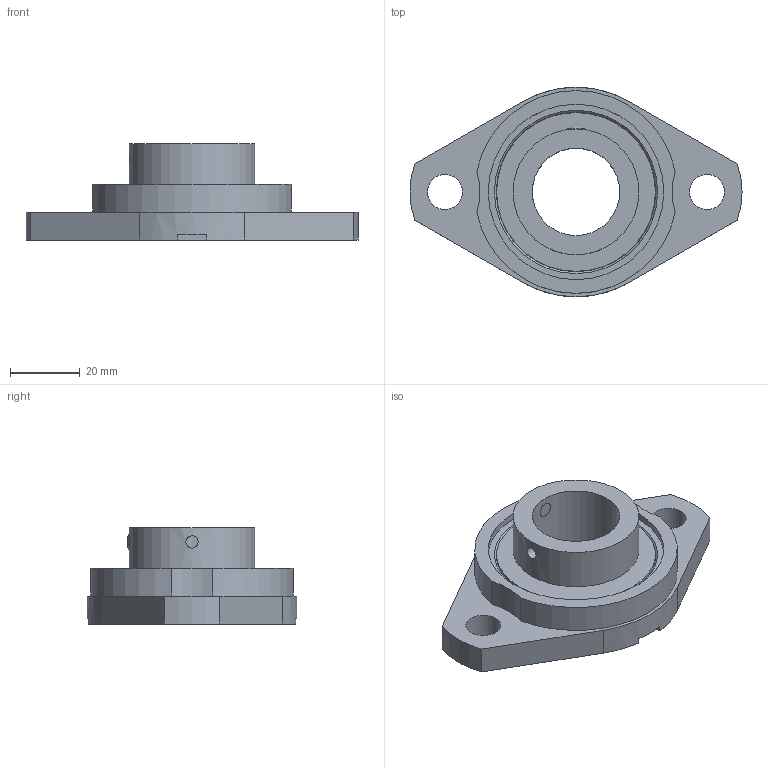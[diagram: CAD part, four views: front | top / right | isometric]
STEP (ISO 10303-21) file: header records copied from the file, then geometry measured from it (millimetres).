
FILE_DESCRIPTION((''),'2;1');
FILE_NAME('\\Ts-tgl068\j-cad-d-base\00.3DCADデータ作成フォルダ\11.エコシリーズ\MUSFL000\MUSFL005.stp','2014-11-12T09:41:41',('btec_1106_2'),(''),'Autodesk Inventor 2012','Autodesk Inventor 2012','');
FILE_SCHEMA(('AUTOMOTIVE_DESIGN { 1 0 10303 214 1 1 1 1 }'));
Length unit declared in the file: millimetre
Products named in the file (3): MUSFL000; SFL005; U005
Assembly tree (2 placements, depth 2):
  MUSFL000
    SFL005
    U005
Bounding box: 95 x 60 x 27.5 mm (x, y, z)
Volume: 42870.2 mm3; surface area: 18494.8 mm2
Topology: 2 solids, 2 shells, 75 faces, 187 edges, 121 vertices
Faces by surface type: plane 39, cylinder 31, cone 3, sphere 2
Full cylindrical faces by diameter (mm): 3.5 x1, 10 x2, 25 x1, 31.7 x1, 36 x1, 50.2 x1
Entity records: 2359 total; most frequent: CARTESIAN_POINT 502, DIRECTION 390, ORIENTED_EDGE 338, EDGE_CURVE 169, AXIS2_PLACEMENT_3D 148, VERTEX_POINT 117, EDGE_LOOP 104, VECTOR 94
